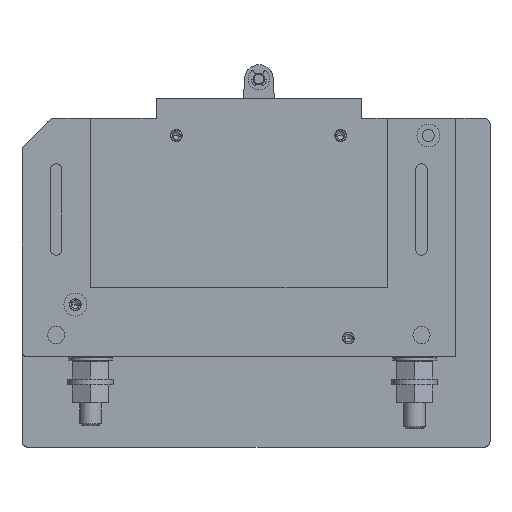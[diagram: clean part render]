
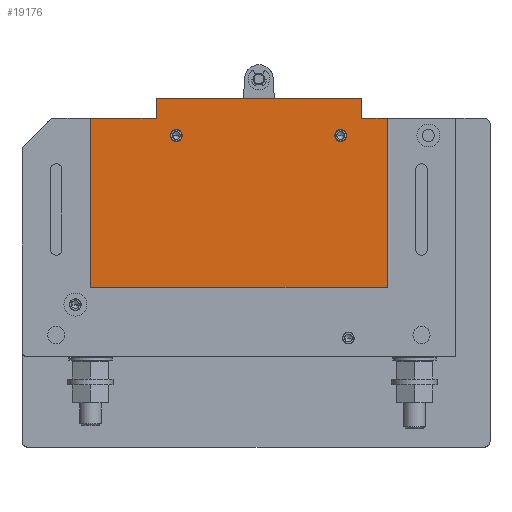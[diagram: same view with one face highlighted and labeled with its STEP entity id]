
A CAD part, top view. The second image highlights one B-rep face of the part: STEP entity #19176.
In plain terms, the highlighted planar face has unit normal (0, 0, 1).
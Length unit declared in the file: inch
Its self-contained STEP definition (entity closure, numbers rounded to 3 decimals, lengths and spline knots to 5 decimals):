
#2930=DIRECTION('',(0.,1.,0.));
#2931=VECTOR('',#2930,1.86);
#2932=CARTESIAN_POINT('',(-1.844,-1.514,2.052));
#2933=LINE('',#2932,#2931);
#2934=DIRECTION('',(-1.,0.,0.));
#2935=VECTOR('',#2934,0.719);
#2936=CARTESIAN_POINT('',(-1.125,0.346,2.052));
#2937=LINE('',#2936,#2935);
#2938=DIRECTION('',(0.,-1.,0.));
#2939=VECTOR('',#2938,0.22);
#2940=CARTESIAN_POINT('',(-1.125,0.566,2.052));
#2941=LINE('',#2940,#2939);
#2942=DIRECTION('',(-1.,0.,0.));
#2943=VECTOR('',#2942,2.25);
#2944=CARTESIAN_POINT('',(1.125,0.566,2.052));
#2945=LINE('',#2944,#2943);
#2946=DIRECTION('',(0.,1.,0.));
#2947=VECTOR('',#2946,0.22);
#2948=CARTESIAN_POINT('',(1.125,0.346,2.052));
#2949=LINE('',#2948,#2947);
#2950=DIRECTION('',(-1.,0.,0.));
#2951=VECTOR('',#2950,0.281);
#2952=CARTESIAN_POINT('',(1.406,0.346,2.052));
#2953=LINE('',#2952,#2951);
#2954=DIRECTION('',(0.,-1.,0.));
#2955=VECTOR('',#2954,1.86);
#2956=CARTESIAN_POINT('',(1.406,0.346,2.052));
#2957=LINE('',#2956,#2955);
#2958=DIRECTION('',(-1.,0.,0.));
#2959=VECTOR('',#2958,3.25);
#2960=CARTESIAN_POINT('',(1.406,-1.514,2.052));
#2961=LINE('',#2960,#2959);
#2962=CARTESIAN_POINT('',(-0.905,0.156,2.052));
#2963=DIRECTION('',(0.,0.,-1.));
#2964=DIRECTION('',(-1.,0.,0.));
#2965=AXIS2_PLACEMENT_3D('',#2962,#2963,#2964);
#2967=CARTESIAN_POINT('',(-0.905,0.156,2.052));
#2968=DIRECTION('',(0.,0.,-1.));
#2969=DIRECTION('',(1.,0.,0.));
#2970=AXIS2_PLACEMENT_3D('',#2967,#2968,#2969);
#2972=CARTESIAN_POINT('',(0.897,0.156,2.052));
#2973=DIRECTION('',(0.,0.,-1.));
#2974=DIRECTION('',(-1.,0.,0.));
#2975=AXIS2_PLACEMENT_3D('',#2972,#2973,#2974);
#2977=CARTESIAN_POINT('',(0.897,0.156,2.052));
#2978=DIRECTION('',(0.,0.,-1.));
#2979=DIRECTION('',(1.,0.,0.));
#2980=AXIS2_PLACEMENT_3D('',#2977,#2978,#2979);
#14066=CARTESIAN_POINT('',(1.125,0.566,2.052));
#14067=CARTESIAN_POINT('',(-1.125,0.566,2.052));
#14068=VERTEX_POINT('',#14066);
#14069=VERTEX_POINT('',#14067);
#14070=CARTESIAN_POINT('',(1.125,0.346,2.052));
#14071=VERTEX_POINT('',#14070);
#14072=CARTESIAN_POINT('',(-1.125,0.346,2.052));
#14073=VERTEX_POINT('',#14072);
#14094=CARTESIAN_POINT('',(-0.97,0.156,2.052));
#14095=CARTESIAN_POINT('',(-0.84,0.156,2.052));
#14096=VERTEX_POINT('',#14094);
#14097=VERTEX_POINT('',#14095);
#14098=CARTESIAN_POINT('',(0.832,0.156,2.052));
#14099=CARTESIAN_POINT('',(0.962,0.156,2.052));
#14100=VERTEX_POINT('',#14098);
#14101=VERTEX_POINT('',#14099);
#14112=CARTESIAN_POINT('',(-1.844,-1.514,2.052));
#14113=CARTESIAN_POINT('',(-1.844,0.346,2.052));
#14114=VERTEX_POINT('',#14112);
#14115=VERTEX_POINT('',#14113);
#14116=CARTESIAN_POINT('',(1.406,-1.514,2.052));
#14117=VERTEX_POINT('',#14116);
#14118=CARTESIAN_POINT('',(1.406,0.346,2.052));
#14119=VERTEX_POINT('',#14118);
#19144=CARTESIAN_POINT('',(0.,0.,2.052));
#19145=DIRECTION('',(0.,0.,1.));
#19146=DIRECTION('',(1.,0.,0.));
#19147=AXIS2_PLACEMENT_3D('',#19144,#19145,#19146);
#19148=PLANE('',#19147);
#19150=ORIENTED_EDGE('',*,*,#19149,.T.);
#19151=ORIENTED_EDGE('',*,*,#15647,.F.);
#19153=ORIENTED_EDGE('',*,*,#19152,.F.);
#19155=ORIENTED_EDGE('',*,*,#19154,.F.);
#19157=ORIENTED_EDGE('',*,*,#19156,.F.);
#19158=ORIENTED_EDGE('',*,*,#16125,.F.);
#19159=ORIENTED_EDGE('',*,*,#19135,.T.);
#19161=ORIENTED_EDGE('',*,*,#19160,.T.);
#19162=EDGE_LOOP('',(#19150,#19151,#19153,#19155,#19157,#19158,#19159,#19161));
#19163=FACE_OUTER_BOUND('',#19162,.F.);
#19165=ORIENTED_EDGE('',*,*,#19164,.F.);
#19167=ORIENTED_EDGE('',*,*,#19166,.F.);
#19168=EDGE_LOOP('',(#19165,#19167));
#19169=FACE_BOUND('',#19168,.F.);
#19171=ORIENTED_EDGE('',*,*,#19170,.F.);
#19173=ORIENTED_EDGE('',*,*,#19172,.F.);
#19174=EDGE_LOOP('',(#19171,#19173));
#19175=FACE_BOUND('',#19174,.F.);
#2966=CIRCLE('',#2965,0.065);
#2971=CIRCLE('',#2970,0.065);
#2976=CIRCLE('',#2975,0.065);
#2981=CIRCLE('',#2980,0.065);
#15647=EDGE_CURVE('',#14073,#14115,#2937,.T.);
#16125=EDGE_CURVE('',#14119,#14071,#2953,.T.);
#19135=EDGE_CURVE('',#14119,#14117,#2957,.T.);
#19149=EDGE_CURVE('',#14114,#14115,#2933,.T.);
#19152=EDGE_CURVE('',#14069,#14073,#2941,.T.);
#19154=EDGE_CURVE('',#14068,#14069,#2945,.T.);
#19156=EDGE_CURVE('',#14071,#14068,#2949,.T.);
#19160=EDGE_CURVE('',#14117,#14114,#2961,.T.);
#19164=EDGE_CURVE('',#14096,#14097,#2966,.T.);
#19166=EDGE_CURVE('',#14097,#14096,#2971,.T.);
#19170=EDGE_CURVE('',#14100,#14101,#2976,.T.);
#19172=EDGE_CURVE('',#14101,#14100,#2981,.T.);
#19176=ADVANCED_FACE('',(#19163,#19169,#19175),#19148,.T.);
